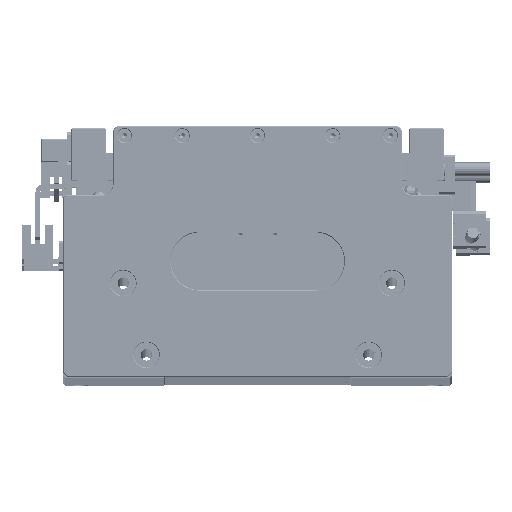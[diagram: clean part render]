
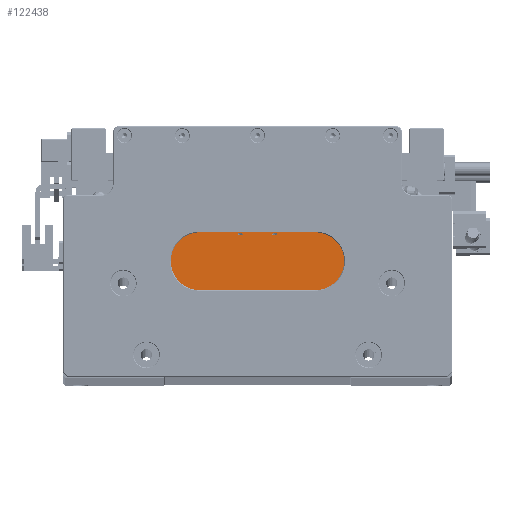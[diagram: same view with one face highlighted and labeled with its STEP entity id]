
A CAD part, top view. The second image highlights one B-rep face of the part: STEP entity #122438.
In plain terms, the highlighted planar face has unit normal (0, 0, 1).
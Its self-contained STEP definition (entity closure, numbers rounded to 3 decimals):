
#1012 = CARTESIAN_POINT ( 'NONE',  ( 33.5, 69.2, 90. ) ) ;
#2178 = CARTESIAN_POINT ( 'NONE',  ( 0., 69.2, 90. ) ) ;
#4852 = LINE ( 'NONE', #54117, #57670 ) ;
#5643 = VERTEX_POINT ( 'NONE', #122762 ) ;
#7720 = DIRECTION ( 'NONE',  ( 0., -1., 0. ) ) ;
#7820 = LINE ( 'NONE', #125884, #37660 ) ;
#10262 = DIRECTION ( 'NONE',  ( -1., 0., 0. ) ) ;
#10782 = ORIENTED_EDGE ( 'NONE', *, *, #68575, .T. ) ;
#11831 = EDGE_CURVE ( 'NONE', #133156, #79327, #92680, .T. ) ;
#12408 = DIRECTION ( 'NONE',  ( 0., 1., 0. ) ) ;
#13736 = VERTEX_POINT ( 'NONE', #86444 ) ;
#15435 = EDGE_CURVE ( 'NONE', #13736, #41506, #50977, .T. ) ;
#17405 = VECTOR ( 'NONE', #7720, 1000. ) ;
#18200 = LINE ( 'NONE', #117255, #74570 ) ;
#18442 = DIRECTION ( 'NONE',  ( 0., 0., -1. ) ) ;
#20237 = VERTEX_POINT ( 'NONE', #67628 ) ;
#20913 = CARTESIAN_POINT ( 'NONE',  ( -33.5, 61.2, 90. ) ) ;
#21278 = VECTOR ( 'NONE', #51502, 1000. ) ;
#22188 = VECTOR ( 'NONE', #12408, 1000. ) ;
#23451 = ORIENTED_EDGE ( 'NONE', *, *, #15435, .T. ) ;
#24795 = DIRECTION ( 'NONE',  ( 0., 0., 1. ) ) ;
#27061 = EDGE_CURVE ( 'NONE', #79327, #134053, #18200, .T. ) ;
#30117 = CIRCLE ( 'NONE', #60228, 1.25 ) ;
#32825 = CARTESIAN_POINT ( 'NONE',  ( -45., 61.2, 90. ) ) ;
#34303 = EDGE_CURVE ( 'NONE', #134053, #86526, #4852, .T. ) ;
#35655 = EDGE_CURVE ( 'NONE', #5643, #133156, #62609, .T. ) ;
#36686 = AXIS2_PLACEMENT_3D ( 'NONE', #2178, #24795, #103671 ) ;
#37660 = VECTOR ( 'NONE', #58848, 1000. ) ;
#38795 = ORIENTED_EDGE ( 'NONE', *, *, #77954, .F. ) ;
#40946 = EDGE_LOOP ( 'NONE', ( #139980, #123052, #105059, #131403, #82843, #144137, #10782, #38795 ) ) ;
#41506 = VERTEX_POINT ( 'NONE', #60911 ) ;
#42343 = FACE_BOUND ( 'NONE', #68350, .T. ) ;
#45896 = FACE_OUTER_BOUND ( 'NONE', #40946, .T. ) ;
#46526 = ORIENTED_EDGE ( 'NONE', *, *, #140757, .T. ) ;
#46986 = PLANE ( 'NONE',  #36686 ) ;
#47332 = LINE ( 'NONE', #108698, #17405 ) ;
#48884 = EDGE_CURVE ( 'NONE', #53661, #50453, #30117, .T. ) ;
#50453 = VERTEX_POINT ( 'NONE', #98124 ) ;
#50976 = CIRCLE ( 'NONE', #53915, 1.25 ) ;
#50977 = LINE ( 'NONE', #32825, #77449 ) ;
#51502 = DIRECTION ( 'NONE',  ( -1., 0., 0. ) ) ;
#53661 = VERTEX_POINT ( 'NONE', #104700 ) ;
#53745 = CARTESIAN_POINT ( 'NONE',  ( 7.5, 61.2, 90. ) ) ;
#53915 = AXIS2_PLACEMENT_3D ( 'NONE', #85921, #18442, #97252 ) ;
#54117 = CARTESIAN_POINT ( 'NONE',  ( -33.5, 69.2, 90. ) ) ;
#57670 = VECTOR ( 'NONE', #99477, 1000. ) ;
#58848 = DIRECTION ( 'NONE',  ( -1., 0., 0. ) ) ;
#60228 = AXIS2_PLACEMENT_3D ( 'NONE', #53745, #132611, #65097 ) ;
#60911 = CARTESIAN_POINT ( 'NONE',  ( -8.75, 61.2, 90. ) ) ;
#62609 = LINE ( 'NONE', #67511, #119093 ) ;
#65097 = DIRECTION ( 'NONE',  ( 1., 0., 0. ) ) ;
#67511 = CARTESIAN_POINT ( 'NONE',  ( 0., 61.2, 90. ) ) ;
#67628 = CARTESIAN_POINT ( 'NONE',  ( -45., 61.2, 90. ) ) ;
#68350 = EDGE_LOOP ( 'NONE', ( #98967, #23451 ) ) ;
#68575 = EDGE_CURVE ( 'NONE', #20237, #130082, #104878, .T. ) ;
#69973 = CARTESIAN_POINT ( 'NONE',  ( 45., 29., 90. ) ) ;
#74570 = VECTOR ( 'NONE', #94578, 1000. ) ;
#74866 = VECTOR ( 'NONE', #78339, 1000. ) ;
#77449 = VECTOR ( 'NONE', #10262, 1000. ) ;
#77954 = EDGE_CURVE ( 'NONE', #123755, #130082, #100571, .T. ) ;
#78339 = DIRECTION ( 'NONE',  ( 0., -1., 0. ) ) ;
#79327 = VERTEX_POINT ( 'NONE', #93680 ) ;
#81867 = ORIENTED_EDGE ( 'NONE', *, *, #48884, .T. ) ;
#82843 = ORIENTED_EDGE ( 'NONE', *, *, #34303, .T. ) ;
#84040 = CARTESIAN_POINT ( 'NONE',  ( 0., 61.2, 90. ) ) ;
#85921 = CARTESIAN_POINT ( 'NONE',  ( -7.5, 61.2, 90. ) ) ;
#86391 = EDGE_CURVE ( 'NONE', #41506, #13736, #50976, .T. ) ;
#86444 = CARTESIAN_POINT ( 'NONE',  ( -6.25, 61.2, 90. ) ) ;
#86526 = VERTEX_POINT ( 'NONE', #20913 ) ;
#92680 = LINE ( 'NONE', #1012, #22188 ) ;
#93680 = CARTESIAN_POINT ( 'NONE',  ( 33.5, 69., 90. ) ) ;
#94578 = DIRECTION ( 'NONE',  ( -1., 0., 0. ) ) ;
#95371 = DIRECTION ( 'NONE',  ( -1., 0., 0. ) ) ;
#97252 = DIRECTION ( 'NONE',  ( 1., 0., 0. ) ) ;
#98124 = CARTESIAN_POINT ( 'NONE',  ( 8.75, 61.2, 90. ) ) ;
#98690 = CARTESIAN_POINT ( 'NONE',  ( 33.5, 61.2, 90. ) ) ;
#98967 = ORIENTED_EDGE ( 'NONE', *, *, #86391, .T. ) ;
#99477 = DIRECTION ( 'NONE',  ( 0., -1., 0. ) ) ;
#100571 = LINE ( 'NONE', #107739, #21278 ) ;
#103671 = DIRECTION ( 'NONE',  ( 1., 0., 0. ) ) ;
#104700 = CARTESIAN_POINT ( 'NONE',  ( 6.25, 61.2, 90. ) ) ;
#104878 = LINE ( 'NONE', #111920, #74866 ) ;
#105059 = ORIENTED_EDGE ( 'NONE', *, *, #11831, .T. ) ;
#107739 = CARTESIAN_POINT ( 'NONE',  ( -45., 29., 90. ) ) ;
#108698 = CARTESIAN_POINT ( 'NONE',  ( 45., 61.2, 90. ) ) ;
#111920 = CARTESIAN_POINT ( 'NONE',  ( -45., 69.2, 90. ) ) ;
#115965 = CARTESIAN_POINT ( 'NONE',  ( -45., 29., 90. ) ) ;
#117255 = CARTESIAN_POINT ( 'NONE',  ( 0., 69., 90. ) ) ;
#117660 = CARTESIAN_POINT ( 'NONE',  ( -33.5, 69., 90. ) ) ;
#118446 = VECTOR ( 'NONE', #95371, 1000. ) ;
#119093 = VECTOR ( 'NONE', #135045, 1000. ) ;
#122438 = ADVANCED_FACE ( 'NONE', ( #45896, #42343, #132291 ), #46986, .T. ) ;
#122762 = CARTESIAN_POINT ( 'NONE',  ( 45., 61.2, 90. ) ) ;
#123052 = ORIENTED_EDGE ( 'NONE', *, *, #35655, .T. ) ;
#123755 = VERTEX_POINT ( 'NONE', #69973 ) ;
#124613 = EDGE_CURVE ( 'NONE', #5643, #123755, #47332, .T. ) ;
#125884 = CARTESIAN_POINT ( 'NONE',  ( -45., 61.2, 90. ) ) ;
#129530 = EDGE_CURVE ( 'NONE', #86526, #20237, #144806, .T. ) ;
#129630 = EDGE_LOOP ( 'NONE', ( #81867, #46526 ) ) ;
#130082 = VERTEX_POINT ( 'NONE', #115965 ) ;
#131403 = ORIENTED_EDGE ( 'NONE', *, *, #27061, .T. ) ;
#132291 = FACE_BOUND ( 'NONE', #129630, .T. ) ;
#132611 = DIRECTION ( 'NONE',  ( 0., 0., -1. ) ) ;
#133156 = VERTEX_POINT ( 'NONE', #98690 ) ;
#134053 = VERTEX_POINT ( 'NONE', #117660 ) ;
#135045 = DIRECTION ( 'NONE',  ( -1., 0., 0. ) ) ;
#139980 = ORIENTED_EDGE ( 'NONE', *, *, #124613, .F. ) ;
#140757 = EDGE_CURVE ( 'NONE', #50453, #53661, #7820, .T. ) ;
#144137 = ORIENTED_EDGE ( 'NONE', *, *, #129530, .T. ) ;
#144806 = LINE ( 'NONE', #84040, #118446 ) ;
